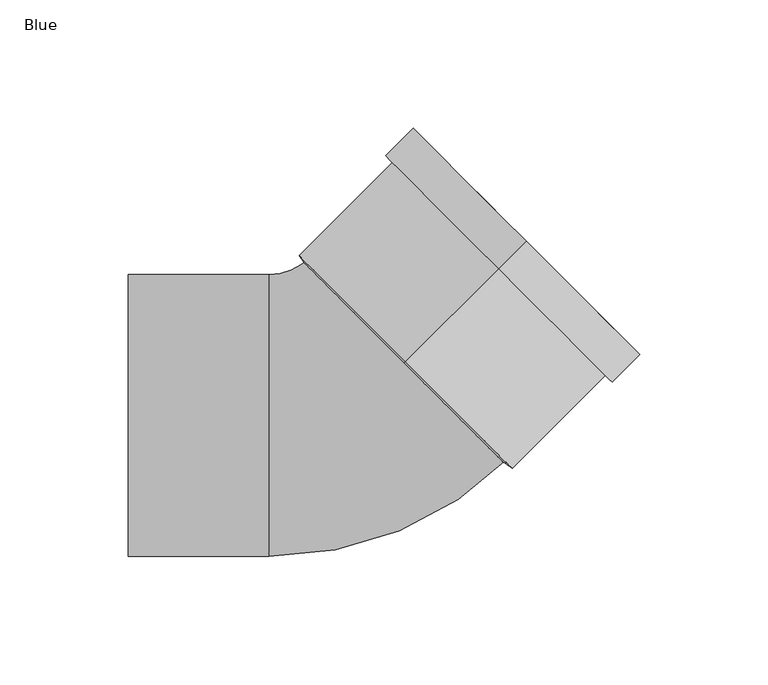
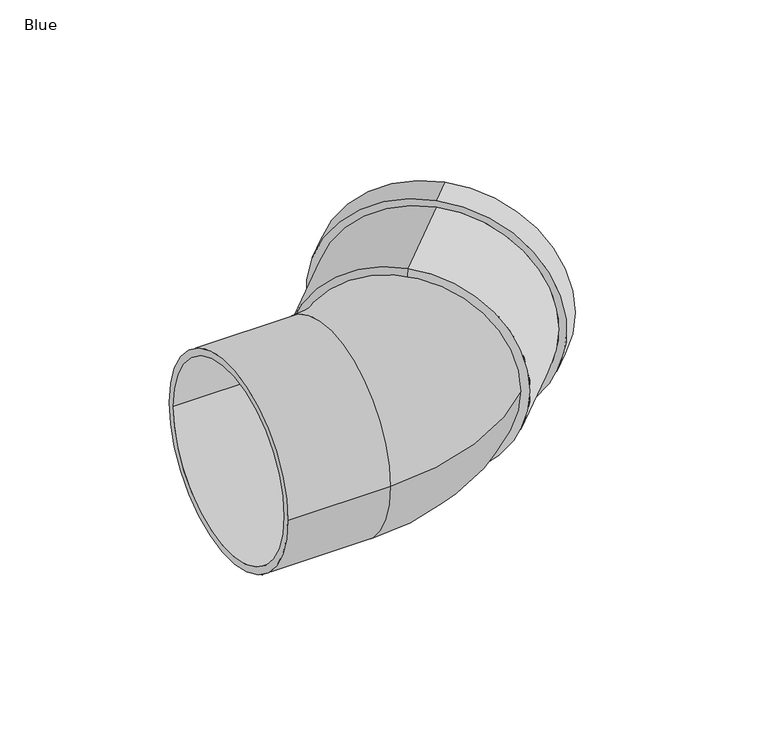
"""IFC4 building model written with IfcOpenShell, lengths in millimetres: pipe fitting geometry, AWADUKT PP SN10 Bend : Blue."""

from ifc_helpers import new_model, si_unit, point, frame, origin, place, context, project, spatial, polyline, circle_curve, ellipse_curve, trimmed, source, transform, mapped, element, save
from ifc_brep_helpers import plane_surface, cylinder_surface, revolved_surface, advanced_brep


def blue_6a90c062(model_context):
    return source(origin(), model_context, "Body", "AdvancedBrep", [
        advanced_brep(
        [(57.2756493, 57.2756493, 58.8), (57.2756493, 57.2756493, -58.8), (20.9879644, 20.9879644, -58.8), (20.9879644, 20.9879644, 58.8), (68.0236724, 68.0236724, 62.6), (68.0236724, 68.0236724, -62.6), (57.2756493, 57.2756493, -62.6), (57.2756493, 57.2756493, 62.6), (65.3366666, 65.3366666, 55.0), (65.3366666, 65.3366666, -55.0), (68.0236724, 68.0236724, -55.0), (68.0236724, 68.0236724, 55.0), (59.962655, 59.962655, 58.8), (59.962655, 59.962655, -58.8), (65.3366666, 65.3366666, -58.8), (65.3366666, 65.3366666, 58.8), (23.24263, 23.24263, 55.0), (23.24263, 23.24263, -55.0), (59.962655, 59.962655, -55.0), (59.962655, 59.962655, 55.0), (22.7688384, 22.7688384, 51.2), (22.7688384, 22.7688384, -51.2), (20.0403812, 20.0403812, 51.2), (20.0403812, 20.0403812, -51.2)],
        [
            (0, 1, circle_curve(frame((57.2756493, 57.2756493, 0.0), z_axis=(-0.707106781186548, -0.7071067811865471, 0.0), x_axis=(0.0, 0.0, -1.0)), 58.8)),
            (1, 2),
            (2, 3, circle_curve(frame((20.9879644, 20.9879644, 0.0), z_axis=(0.707106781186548, 0.7071067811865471, 0.0), x_axis=(0.0, 0.0, -1.0)), 58.8)),
            (3, 0),
            (4, 5, circle_curve(frame((68.0236724, 68.0236724, 0.0), z_axis=(-0.707106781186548, -0.7071067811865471, 0.0), x_axis=(0.0, 0.0, -1.0)), 62.6)),
            (5, 6),
            (6, 7, circle_curve(frame((57.2756493, 57.2756493, 0.0), z_axis=(0.707106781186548, 0.7071067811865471, 0.0), x_axis=(0.0, 0.0, -1.0)), 62.6)),
            (7, 4),
            (8, 9, circle_curve(frame((65.3366666, 65.3366666, 0.0), z_axis=(-0.707106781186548, -0.7071067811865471, 0.0), x_axis=(0.0, 0.0, -1.0)), 55.0)),
            (9, 10),
            (10, 11, circle_curve(frame((68.0236724, 68.0236724, 0.0), z_axis=(0.707106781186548, 0.7071067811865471, 0.0), x_axis=(0.0, 0.0, -1.0)), 55.0)),
            (11, 8),
            (12, 13, circle_curve(frame((59.962655, 59.962655, 0.0), z_axis=(-0.707106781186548, -0.7071067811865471, 0.0), x_axis=(0.0, 0.0, -1.0)), 58.8)),
            (13, 14),
            (14, 15, circle_curve(frame((65.3366666, 65.3366666, 0.0), z_axis=(0.707106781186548, 0.7071067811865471, 0.0), x_axis=(0.0, 0.0, -1.0)), 58.8)),
            (15, 12),
            (16, 17, circle_curve(frame((23.24263, 23.24263, 0.0), z_axis=(-0.707106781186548, -0.7071067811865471, 0.0), x_axis=(0.0, 0.0, -1.0)), 55.0)),
            (17, 18),
            (18, 19, circle_curve(frame((59.962655, 59.962655, 0.0), z_axis=(0.707106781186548, 0.7071067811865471, 0.0), x_axis=(0.0, 0.0, -1.0)), 55.0)),
            (19, 16),
            (20, 21, circle_curve(frame((22.7688384, 22.7688384, 0.0), z_axis=(-0.707106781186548, -0.7071067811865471, 0.0), x_axis=(0.0, 0.0, -1.0)), 51.2)),
            (21, 17),
            (16, 20),
            (22, 23, circle_curve(frame((20.0403812, 20.0403812, 0.0), z_axis=(-0.707106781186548, -0.7071067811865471, 0.0), x_axis=(0.0, 0.0, -1.0)), 51.2)),
            (23, 21),
            (20, 22),
            (2, 23),
            (22, 3),
            (1, 0, circle_curve(frame((57.2756493, 57.2756493, 0.0), z_axis=(-0.707106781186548, -0.7071067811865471, 0.0), x_axis=(0.0, 0.0, 1.0)), 58.8)),
            (3, 2, circle_curve(frame((20.9879644, 20.9879644, 0.0), z_axis=(0.707106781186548, 0.7071067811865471, 0.0), x_axis=(0.0, 0.0, 1.0)), 58.8)),
            (6, 7, circle_curve(frame((57.2756493, 57.2756493, 0.0), z_axis=(-0.707106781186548, -0.7071067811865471, 0.0), x_axis=(0.0, 0.0, 1.0)), 62.6)),
            (5, 4, circle_curve(frame((68.0236724, 68.0236724, 0.0), z_axis=(-0.707106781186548, -0.7071067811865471, 0.0), x_axis=(0.0, 0.0, 1.0)), 62.6)),
            (10, 11, circle_curve(frame((68.0236724, 68.0236724, 0.0), z_axis=(-0.707106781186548, -0.7071067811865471, 0.0), x_axis=(0.0, 0.0, 1.0)), 55.0)),
            (9, 8, circle_curve(frame((65.3366666, 65.3366666, 0.0), z_axis=(-0.707106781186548, -0.7071067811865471, 0.0), x_axis=(0.0, 0.0, 1.0)), 55.0)),
            (14, 15, circle_curve(frame((65.3366666, 65.3366666, 0.0), z_axis=(-0.707106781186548, -0.7071067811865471, 0.0), x_axis=(0.0, 0.0, 1.0)), 58.8)),
            (13, 12, circle_curve(frame((59.962655, 59.962655, 0.0), z_axis=(-0.707106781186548, -0.7071067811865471, 0.0), x_axis=(0.0, 0.0, 1.0)), 58.8)),
            (18, 19, circle_curve(frame((59.962655, 59.962655, 0.0), z_axis=(-0.707106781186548, -0.7071067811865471, 0.0), x_axis=(0.0, 0.0, 1.0)), 55.0)),
            (17, 16, circle_curve(frame((23.24263, 23.24263, 0.0), z_axis=(-0.707106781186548, -0.7071067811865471, 0.0), x_axis=(0.0, 0.0, 1.0)), 55.0)),
            (21, 20, circle_curve(frame((22.7688384, 22.7688384, 0.0), z_axis=(-0.707106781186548, -0.7071067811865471, 0.0), x_axis=(0.0, 0.0, 1.0)), 51.2)),
            (23, 22, circle_curve(frame((20.0403812, 20.0403812, 0.0), z_axis=(-0.707106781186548, -0.7071067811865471, 0.0), x_axis=(0.0, 0.0, 1.0)), 51.2)),
        ],
        [
            cylinder_surface(frame((22.7688384, 22.7688384, 0.0), z_axis=(0.707106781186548, 0.7071067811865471, 0.0), x_axis=(0.0, 0.0, -1.0)), 58.8),
            cylinder_surface(frame((22.7688384, 22.7688384, 0.0), z_axis=(0.707106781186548, 0.7071067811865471, 0.0), x_axis=(0.0, 0.0, -1.0)), 62.6),
            revolved_surface(polyline([(68.02367240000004, 68.02367239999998, -55.0), (65.33666660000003, 65.33666659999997, -55.0)]), (22.7688384, 22.7688384, 0.0), (0.707106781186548, 0.7071067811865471, 0.0)),
            revolved_surface(polyline([(65.33666660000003, 65.33666659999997, -58.8), (59.96265500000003, 59.96265499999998, -58.8)]), (22.7688384, 22.7688384, 0.0), (0.707106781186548, 0.7071067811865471, 0.0)),
            revolved_surface(polyline([(59.96265500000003, 59.96265499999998, -55.0), (23.24263, 23.24263, -55.0)]), (22.7688384, 22.7688384, 0.0), (0.707106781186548, 0.7071067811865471, 0.0)),
            revolved_surface(polyline([(23.24263, 23.24263, -55.0), (22.7688384, 22.7688384, -51.2)]), (22.7688384, 22.7688384, 0.0), (0.707106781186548, 0.7071067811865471, 0.0)),
            revolved_surface(polyline([(22.7688384, 22.7688384, -51.2), (20.040381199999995, 20.0403812, -51.2)]), (22.7688384, 22.7688384, 0.0), (0.707106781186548, 0.7071067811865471, 0.0)),
            revolved_surface(polyline([(20.0403812, 20.0403812, -51.2), (20.9879644, 20.9879644, -58.8)]), (22.7688384, 22.7688384, 0.0), (0.707106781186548, 0.7071067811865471, 0.0)),
            cylinder_surface(frame((22.7688384, 22.7688384, 0.0), z_axis=(0.707106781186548, 0.7071067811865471, 0.0), x_axis=(0.0, 0.0, 1.0)), 58.8),
            plane_surface(frame((57.2756493, 57.2756493, 0.0), z_axis=(-0.707106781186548, -0.7071067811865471, 0.0), x_axis=(0.0, 0.0, 1.0))),
            cylinder_surface(frame((22.7688384, 22.7688384, 0.0), z_axis=(0.707106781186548, 0.7071067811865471, 0.0), x_axis=(0.0, 0.0, 1.0)), 62.6),
            plane_surface(frame((68.0236724, 68.0236724, 0.0), z_axis=(0.707106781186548, 0.7071067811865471, 0.0), x_axis=(0.0, 0.0, 1.0))),
            revolved_surface(polyline([(68.02367240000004, 68.02367239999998, 55.0), (65.33666660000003, 65.33666659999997, 55.0)]), (22.7688384, 22.7688384, 0.0), (0.707106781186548, 0.7071067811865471, 0.0)),
            plane_surface(frame((65.3366666, 65.3366666, 0.0), z_axis=(-0.707106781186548, -0.7071067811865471, 0.0), x_axis=(0.0, 0.0, 1.0))),
            revolved_surface(polyline([(65.33666660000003, 65.33666659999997, 58.8), (59.96265500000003, 59.96265499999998, 58.8)]), (22.7688384, 22.7688384, 0.0), (0.707106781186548, 0.7071067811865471, 0.0)),
            plane_surface(frame((59.962655, 59.962655, 0.0), z_axis=(0.707106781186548, 0.7071067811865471, 0.0), x_axis=(0.0, 0.0, 1.0))),
            revolved_surface(polyline([(59.96265500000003, 59.96265499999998, 55.0), (23.24263, 23.24263, 55.0)]), (22.7688384, 22.7688384, 0.0), (0.707106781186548, 0.7071067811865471, 0.0)),
            revolved_surface(polyline([(23.24263, 23.24263, 55.0), (22.7688384, 22.7688384, 51.2)]), (22.7688384, 22.7688384, 0.0), (0.707106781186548, 0.7071067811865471, 0.0)),
            revolved_surface(polyline([(22.7688384, 22.7688384, 51.2), (20.040381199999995, 20.0403812, 51.2)]), (22.7688384, 22.7688384, 0.0), (0.707106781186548, 0.7071067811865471, 0.0)),
            revolved_surface(polyline([(20.0403812, 20.0403812, 51.2), (20.9879644, 20.9879644, 58.8)]), (22.7688384, 22.7688384, 0.0), (0.707106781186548, 0.7071067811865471, 0.0)),
        ],
        [
            (0, [[1, 2, 3, 4]]),
            (1, [[5, 6, 7, 8]]),
            (2, [[9, 10, 11, 12]]),
            (3, [[13, 14, 15, 16]]),
            (4, [[17, 18, 19, 20]]),
            (5, [[21, 22, -17, 23]]),
            (6, [[24, 25, -21, 26]]),
            (7, [[-3, 27, -24, 28]]),
            (8, [[29, -4, 30, -2]]),
            (9, [[31, -7], [-29, -1]]),
            (10, [[32, -8, -31, -6]]),
            (11, [[-32, -5], [33, -11]]),
            (12, [[34, -12, -33, -10]]),
            (13, [[35, -15], [-34, -9]]),
            (14, [[36, -16, -35, -14]]),
            (15, [[-36, -13], [37, -19]]),
            (16, [[38, -20, -37, -18]]),
            (17, [[39, -23, -38, -22]]),
            (18, [[40, -26, -39, -25]]),
            (19, [[-30, -28, -40, -27]]),
        ],
    ),
        advanced_brep(
        [(-87.0, -55.0, 0.0), (-87.0, 55.0, 0.0), (-87.0, -51.2, 0.0), (-87.0, 51.2, 0.0), (61.6597113, -16.1220346, 0.0), (-16.1220346, 61.6597113, 0.0), (58.9727056, -13.4350288, 0.0), (-13.4350288, 58.9727056, 0.0), (-32.2, -51.2, 0.0), (-32.2, 51.2, 0.0), (-32.2, -55.0, 0.0), (-32.2, 55.0, 0.0)],
        [
            (0, 1, circle_curve(frame((-87.0, 0.0, 0.0), z_axis=(-1.0, 0.0, 0.0), x_axis=(0.0, 1.0, 0.0)), 55.0)),
            (1, 0, circle_curve(frame((-87.0, 0.0, 0.0), z_axis=(-1.0, 0.0, 0.0), x_axis=(0.0, 1.0, 0.0)), 55.0)),
            (2, 3, circle_curve(frame((-87.0, 0.0, 0.0), z_axis=(1.0, 0.0, 0.0), x_axis=(0.0, 1.0, 0.0)), 51.2)),
            (3, 2, circle_curve(frame((-87.0, 0.0, 0.0), z_axis=(1.0, 0.0, 0.0), x_axis=(0.0, 1.0, 0.0)), 51.2)),
            (4, 5, circle_curve(frame((22.7688384, 22.7688384, 0.0), z_axis=(0.7071067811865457, 0.7071067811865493, 0.0), x_axis=(-0.7071067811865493, 0.7071067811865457, 0.0)), 55.0)),
            (5, 4, circle_curve(frame((22.7688384, 22.7688384, 0.0), z_axis=(0.7071067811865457, 0.7071067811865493, 0.0), x_axis=(-0.7071067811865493, 0.7071067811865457, 0.0)), 55.0)),
            (6, 7, circle_curve(frame((22.7688384, 22.7688384, 0.0), z_axis=(-0.7071067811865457, -0.7071067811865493, 0.0), x_axis=(-0.7071067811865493, 0.7071067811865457, 0.0)), 51.2)),
            (7, 6, circle_curve(frame((22.7688384, 22.7688384, 0.0), z_axis=(-0.7071067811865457, -0.7071067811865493, 0.0), x_axis=(-0.7071067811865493, 0.7071067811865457, 0.0)), 51.2)),
            (2, 8),
            (8, 9, circle_curve(frame((-32.2, 0.0, 0.0), z_axis=(1.0, 0.0, 0.0), x_axis=(0.0, 1.0, 0.0)), 51.2)),
            (9, 3),
            (9, 8, circle_curve(frame((-32.2, 0.0, 0.0), z_axis=(1.0, 0.0, 0.0), x_axis=(0.0, 1.0, 0.0)), 51.2)),
            (0, 10),
            (10, 11, circle_curve(frame((-32.2, 0.0, 0.0), z_axis=(-1.0, 0.0, 0.0), x_axis=(0.0, 1.0, 0.0)), 55.0)),
            (11, 1),
            (11, 10, circle_curve(frame((-32.2, 0.0, 0.0), z_axis=(-1.0, 0.0, 0.0), x_axis=(0.0, 1.0, 0.0)), 55.0)),
            (7, 9, circle_curve(frame((-32.2, 77.7376767, 0.0), z_axis=(0.0, 0.0, -1.0), x_axis=(0.0, -1.0, 0.0)), 26.5376767)),
            (8, 6, circle_curve(frame((-32.2, 77.7376767, 0.0), z_axis=(0.0, 0.0, 1.0), x_axis=(0.0, -1.0, 0.0)), 128.9376767)),
            (5, 11, circle_curve(frame((-32.2, 77.7376767, 0.0), z_axis=(0.0, 0.0, -1.0), x_axis=(0.0, -1.0, 0.0)), 22.7376767)),
            (10, 4, circle_curve(frame((-32.2, 77.7376767, 0.0), z_axis=(0.0, 0.0, 1.0), x_axis=(0.0, -1.0, 0.0)), 132.7376767)),
        ],
        [
            plane_surface(frame((-87.0, 0.0, 0.0), z_axis=(-1.0, 0.0, 0.0), x_axis=(0.0, 0.0, 1.0))),
            plane_surface(frame((22.7688384, 22.7688384, 0.0), z_axis=(0.7071067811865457, 0.7071067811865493, 0.0), x_axis=(0.0, 0.0, 1.0))),
            revolved_surface(polyline([(-32.2, 51.2, 0.0), (-87.0, 51.2, 0.0)]), (-87.0, 0.0, 0.0), (1.0, 0.0, 0.0)),
            cylinder_surface(frame((-87.0, 0.0, 0.0), z_axis=(-1.0, 0.0, 0.0), x_axis=(0.0, 1.0, 0.0)), 55.0),
            revolved_surface(trimmed(ellipse_curve(frame((-32.2, 0.0, 0.0), z_axis=(1.0, 0.0, 0.0), x_axis=(0.0, 1.0, 0.0)), 51.2, 51.2), [point((-32.2, -51.2, 0.0))], [point((-32.2, 51.2, 0.0))], True, "CARTESIAN"), (-32.2, 77.7376767, 0.0), (0.0, 0.0, 1.0)),
            revolved_surface(trimmed(ellipse_curve(frame((-32.2, 0.0, 0.0), z_axis=(1.0, 0.0, 0.0), x_axis=(0.0, 1.0, 0.0)), 51.2, 51.2), [point((-32.2, 51.2, 0.0))], [point((-32.2, -51.2, 0.0))], True, "CARTESIAN"), (-32.2, 77.7376767, 0.0), (0.0, 0.0, 1.0)),
            revolved_surface(trimmed(ellipse_curve(frame((-32.2, 0.0, 0.0), z_axis=(-1.0, 0.0, 0.0), x_axis=(0.0, 1.0, 0.0)), 55.0, 55.0), [point((-32.2, -55.0, 0.0))], [point((-32.2, 55.0, 0.0))], True, "CARTESIAN"), (-32.2, 77.7376767, 0.0), (0.0, 0.0, 1.0)),
            revolved_surface(trimmed(ellipse_curve(frame((-32.2, 0.0, 0.0), z_axis=(-1.0, 0.0, 0.0), x_axis=(0.0, 1.0, 0.0)), 55.0, 55.0), [point((-32.2, 55.0, 0.0))], [point((-32.2, -55.0, 0.0))], True, "CARTESIAN"), (-32.2, 77.7376767, 0.0), (0.0, 0.0, 1.0)),
        ],
        [
            (0, [[1, 2], [3, 4]]),
            (1, [[5, 6], [7, 8]]),
            (2, [[-3, 9, 10, 11]]),
            (2, [[-4, -11, 12, -9]]),
            (3, [[-1, 13, 14, 15]]),
            (3, [[-2, -15, 16, -13]]),
            (4, [[17, -10, 18, -8]]),
            (5, [[-18, -12, -17, -7]]),
            (6, [[19, -14, 20, -6]]),
            (7, [[-20, -16, -19, -5]]),
        ],
    ),
    ])


if __name__ == "__main__":
    model = new_model("IFC4")
    model_context = context("Model", 3, world=origin())
    ifc_project = project(units=[si_unit("LENGTHUNIT", "METRE", prefix="MILLI")], contexts=[model_context])
    site = spatial("IfcSite", under=ifc_project)
    building = spatial("IfcBuilding", under=site)
    placement = place(None, origin())
    blue_shape = blue_6a90c062(model_context)
    element("IfcPipeFitting", 1, ObjectType="AWADUKT PP SN10 Bend : Blue", at=placement, inside=building, context=model_context, shape_type="MappedRepresentation", body=[
        mapped(blue_shape, transform((0.0, 0.0, 0.0), x_axis=(1.0, 0.0, 0.0), y_axis=(0.0, 1.0, 0.0), z_axis=(0.0, 0.0, 1.0))),
    ])
    save(model, "model.ifc")
